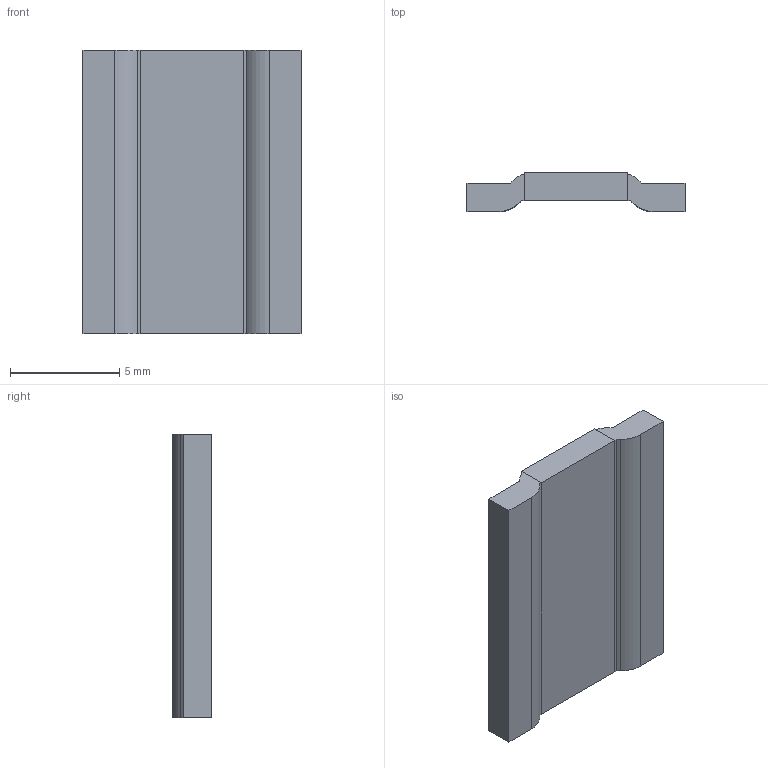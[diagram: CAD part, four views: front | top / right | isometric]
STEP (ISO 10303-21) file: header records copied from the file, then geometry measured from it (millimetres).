
FILE_DESCRIPTION (( 'STEP AP203' ), '1' );
FILE_NAME ('SEWF3951-1.3m¦¸.STEP', '2023-11-22T07:50:16', ( 'meks@163.com' ), ( '' ), 'SwSTEP 2.0', 'SolidWorks 2020', '' );
FILE_SCHEMA (( 'CONFIG_CONTROL_DESIGN' ));
Length unit declared in the file: millimetre
Products named in the file (1): SEWF3951-1.3m次
Bounding box: 10 x 1.8 x 13 mm (x, y, z)
Volume: 167.3 mm3; surface area: 393.1 mm2
Topology: 3 solids, 3 shells, 28 faces, 66 edges, 44 vertices
Faces by surface type: plane 24, cylinder 4
Entity records: 871 total; most frequent: CARTESIAN_POINT 139, ORIENTED_EDGE 132, DIRECTION 132, EDGE_CURVE 66, LINE 58, VECTOR 58, VERTEX_POINT 44, AXIS2_PLACEMENT_3D 37
